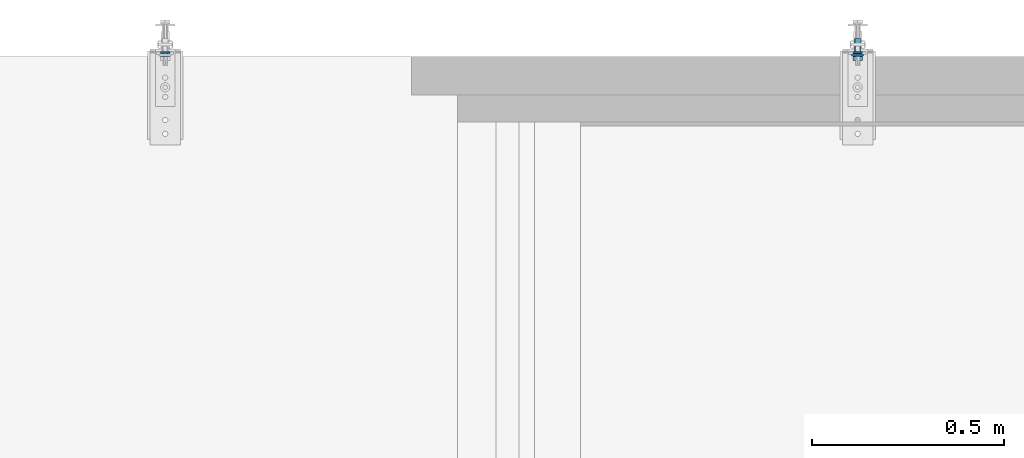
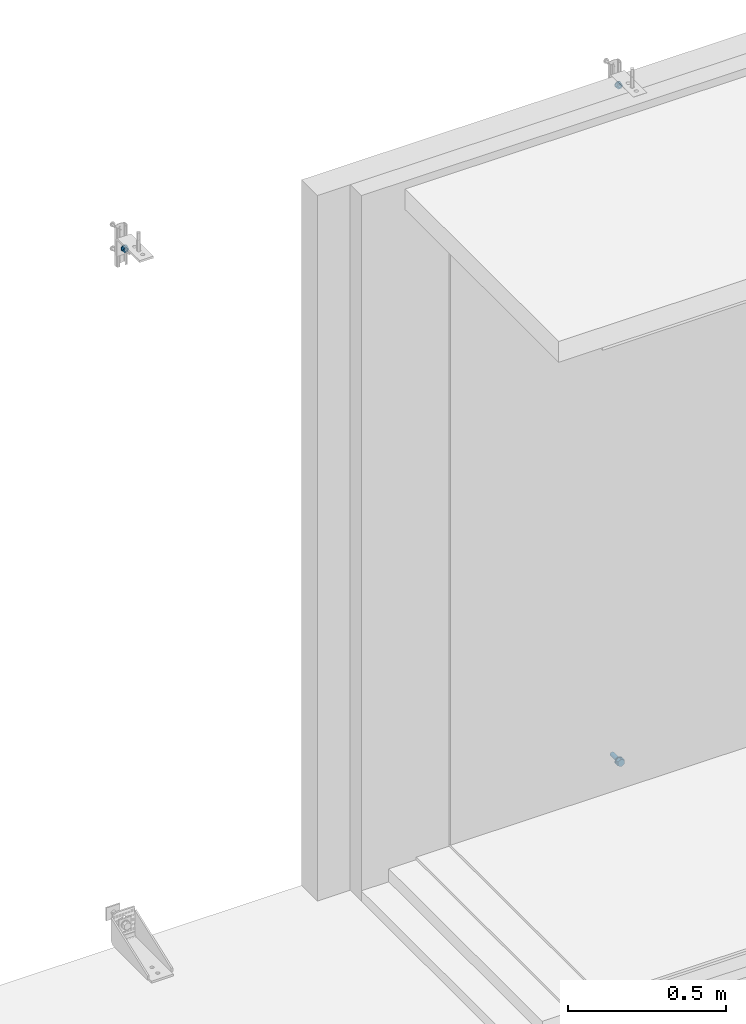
# One storey, part 2 of 7: 6 assemblies.
"""IFC2X3 building model written with IfcOpenShell, lengths in metres."""

from ifc_helpers import new_model, entity, si_unit, converted_unit, derived_unit, direction, frame, frame_2d, origin, place, context, subcontext, project, spatial, polyline, circle_curve, parameter, trimmed, segment, composite_curve, circle, hollow_circle, outline, extrude, source, transform, mapped, material, type_object, type_shapes, element, save


model = new_model("IFC2X3")

# Units and contexts
model_context = context("Model", 3, precision=1e-05, world=origin(), true_north=direction((6.123031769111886e-17, 1.0)))
body_context = subcontext(model_context, "Body", "Model", "MODEL_VIEW")
ifc_project = project(units=[si_unit("LENGTHUNIT", "METRE"), si_unit("AREAUNIT", "SQUARE_METRE"), converted_unit("PLANEANGLEUNIT", "DEGREE", entity("IfcPlaneAngleMeasure", 0.017453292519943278), si_unit("PLANEANGLEUNIT", "RADIAN"), dimensions=[0, 0, 0, 0, 0, 0, 0]), si_unit("VOLUMEUNIT", "CUBIC_METRE"), derived_unit("THERMALTRANSMITTANCEUNIT", [(si_unit("MASSUNIT", "GRAM", prefix="KILO"), 1), (si_unit("THERMODYNAMICTEMPERATUREUNIT", "KELVIN"), -1), (si_unit("TIMEUNIT", "SECOND"), -3)]), derived_unit("USERDEFINED", [(si_unit("MASSUNIT", "GRAM", prefix="KILO"), 1), (si_unit("THERMODYNAMICTEMPERATUREUNIT", "KELVIN"), -1), (si_unit("TIMEUNIT", "SECOND"), -2)]), derived_unit("THERMALRESISTANCEUNIT", [(si_unit("MASSUNIT", "GRAM", prefix="KILO"), -1), (si_unit("TIMEUNIT", "SECOND"), 3), (si_unit("THERMODYNAMICTEMPERATUREUNIT", "KELVIN"), 1)]), derived_unit("MASSDENSITYUNIT", [(si_unit("MASSUNIT", "GRAM", prefix="KILO"), 1), (si_unit("LENGTHUNIT", "METRE"), -3)]), derived_unit("VAPORPERMEABILITYUNIT", [(si_unit("LENGTHUNIT", "METRE"), -1), (si_unit("TIMEUNIT", "SECOND"), 1)]), derived_unit("USERDEFINED", [(si_unit("MASSUNIT", "GRAM", prefix="KILO"), 1), (si_unit("TIMEUNIT", "SECOND"), -3), (si_unit("LENGTHUNIT", "METRE"), 3), (si_unit("ELECTRICCURRENTUNIT", "AMPERE"), -2)]), si_unit("PRESSUREUNIT", "PASCAL")], contexts=[model_context])

# Site, building, storey
site_placement = place(None, origin())
site = spatial("IfcSite", under=ifc_project, at=site_placement, Name="Default", CompositionType="ELEMENT")
building_placement = place(site_placement, origin())
building = spatial("IfcBuilding", under=site, at=building_placement, CompositionType="ELEMENT")
storey_placement = place(building_placement, origin())
storey = spatial("IfcBuildingStorey", under=building, at=storey_placement, Name="L0", CompositionType="ELEMENT", Elevation=0.0)

# Assemblies
ifc_material = material(Name="REC_Acero, S 275JR (Zincado)")
type_product_1 = type_object("IfcTypeProduct", Name="REC-A-M16:A-M16", material=ifc_material)
shared_shape_1 = source(origin(), body_context, "Body", "SweptSolid", [
    extrude(hollow_circle(Radius=0.015, WallThickness=0.006499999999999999, at=frame_2d((1.062573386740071e-19, -6.753186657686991e-17), x_axis=(1.0, 0.0))), origin(), (0.0, 0.0, 1.0), 0.003),
])
type_shapes(type_product_1, [shared_shape_1])
assembly_1_placement = place(storey_placement, frame((7.287720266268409, 15.93990529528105, 0.07200000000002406), z_axis=(0.0, -1.0, 0.0), x_axis=(-1.0, 0.0, 0.0)))
element("IfcElementAssembly", 1, at=assembly_1_placement, inside=storey, type_object=type_product_1, material=ifc_material, Name="REC-A-M16:A-M16", ObjectType="REC-A-M16:A-M16", AssemblyPlace="NOTDEFINED", PredefinedType="NOTDEFINED", context=body_context, shape_type="MappedRepresentation", body=[
    mapped(shared_shape_1, transform((0.0, 0.0, 0.0), scale=1.0)),
])
type_product_2 = type_object("IfcTypeProduct", Name="REC-M16-45:M16-45", material=ifc_material)
shared_shape_2 = source(origin(), body_context, "Body", "SweptSolid", [
    extrude(outline(polyline([(-0.0070686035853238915, -0.012243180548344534), (0.007068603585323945, -0.012243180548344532), (0.014137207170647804, 0.0), (0.007068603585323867, 0.012243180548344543), (-0.007068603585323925, 0.012243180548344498), (-0.014137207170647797, 0.0), (-0.0070686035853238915, -0.012243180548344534)])), frame((0.0, 0.0, 0.0), z_axis=(0.0, 0.0, 1.0), x_axis=(-0.49999999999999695, -0.8660254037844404, 0.0)), (0.0, 0.0, 1.0), 0.013000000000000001),
    extrude(circle(Radius=0.008, at=frame_2d((-5.2874371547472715e-19, -3.601699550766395e-17), x_axis=(1.0, 0.0))), frame((0.0, 0.0, -0.045000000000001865)), (0.0, 0.0, 1.0), 0.045000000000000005),
])
type_shapes(type_product_2, [shared_shape_2])
assembly_2_placement = place(storey_placement, frame((7.287720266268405, 15.93690529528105, 0.07200000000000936), z_axis=(0.0, -1.0, 0.0), x_axis=(0.0, 0.0, 1.0)))
element("IfcElementAssembly", 2, at=assembly_2_placement, inside=storey, type_object=type_product_2, material=ifc_material, Name="REC-M16-45:M16-45", ObjectType="REC-M16-45:M16-45", AssemblyPlace="NOTDEFINED", PredefinedType="NOTDEFINED", context=body_context, shape_type="MappedRepresentation", body=[
    mapped(shared_shape_2, transform((0.0, 0.0, 0.0), scale=1.0)),
])
type_product_3 = type_object("IfcTypeProduct", Name="GEN-A-M12:A-M12", material=ifc_material)
shared_shape_3 = source(origin(), body_context, "Body", "SweptSolid", [
    extrude(hollow_circle(Radius=0.011999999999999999, WallThickness=0.004999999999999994, at=frame_2d((1.062573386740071e-19, -1.9386534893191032e-17), x_axis=(1.0, 0.0))), origin(), (0.0, 0.0, 1.0), 0.002399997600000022),
])
type_shapes(type_product_3, [shared_shape_3])
assembly_3_placement = place(storey_placement, frame((5.487720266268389, 15.94653029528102, 2.6749999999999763), z_axis=(0.0, -1.0, 0.0), x_axis=(-1.0, 0.0, 0.0)))
element("IfcElementAssembly", 3, at=assembly_3_placement, inside=storey, type_object=type_product_3, material=ifc_material, Name="GEN-A-M12:A-M12", ObjectType="GEN-A-M12:A-M12", AssemblyPlace="NOTDEFINED", PredefinedType="NOTDEFINED", context=body_context, shape_type="MappedRepresentation", body=[
    mapped(shared_shape_3, transform((0.0, 0.0, 0.0), scale=1.0)),
])
type_product_4 = type_object("IfcTypeProduct", Name="GEN-T-M12:T-M12", material=ifc_material)
shared_shape_4 = source(origin(), body_context, "Body", "SweptSolid", [
    extrude(outline(polyline([(-0.005890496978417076, -0.010202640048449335), (0.005890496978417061, -0.010202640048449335), (0.01178099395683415, 0.0), (0.005890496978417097, 0.010202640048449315), (-0.0058904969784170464, 0.010202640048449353), (-0.011780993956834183, 0.0), (-0.005890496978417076, -0.010202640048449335)]), holes=[composite_curve([segment(trimmed(circle_curve(frame_2d((6.043164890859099e-09, 0.0), x_axis=(1.0, 0.0)), 0.005999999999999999), [parameter(3.053332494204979e-13)], [parameter(180.0)], True, "PARAMETER"), False, "CONTINUOUS"), segment(trimmed(circle_curve(frame_2d((6.043164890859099e-09, 0.0), x_axis=(1.0, 0.0)), 0.005999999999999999), [parameter(179.99999999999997)], [parameter(0.0)], True, "PARAMETER"), False, "CONTINUOUS")], self_intersect=False)]), frame((-6.043164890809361e-09, 0.0, 0.0)), (0.0, 0.0, 1.0), 0.01),
])
type_shapes(type_product_4, [shared_shape_4])
assembly_4_placement = place(storey_placement, frame((5.48772026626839, 15.94413029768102, 2.6749999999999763), z_axis=(0.0, -1.0, 0.0), x_axis=(-1.0, 0.0, 0.0)))
element("IfcElementAssembly", 4, at=assembly_4_placement, inside=storey, type_object=type_product_4, material=ifc_material, Name="GEN-T-M12:T-M12", ObjectType="GEN-T-M12:T-M12", AssemblyPlace="NOTDEFINED", PredefinedType="NOTDEFINED", context=body_context, shape_type="MappedRepresentation", body=[
    mapped(shared_shape_4, transform((0.0, 0.0, 0.0), scale=1.0)),
])
type_product_5 = type_object("IfcTypeProduct", Name="GEN-A-M12:A-M12", material=ifc_material)
shared_shape_5 = source(origin(), body_context, "Body", "SweptSolid", [
    extrude(hollow_circle(Radius=0.011999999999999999, WallThickness=0.004999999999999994, at=frame_2d((1.062573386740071e-19, -5.4025493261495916e-17), x_axis=(1.0, 0.0))), origin(), (0.0, 0.0, 1.0), 0.002399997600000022),
])
type_shapes(type_product_5, [shared_shape_5])
assembly_5_placement = place(storey_placement, frame((7.287720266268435, 15.946530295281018, 2.6750000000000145), z_axis=(0.0, -1.0, 0.0), x_axis=(1.0, 0.0, 0.0)))
element("IfcElementAssembly", 5, at=assembly_5_placement, inside=storey, type_object=type_product_5, material=ifc_material, Name="GEN-A-M12:A-M12", ObjectType="GEN-A-M12:A-M12", AssemblyPlace="NOTDEFINED", PredefinedType="NOTDEFINED", context=body_context, shape_type="MappedRepresentation", body=[
    mapped(shared_shape_5, transform((0.0, 0.0, 0.0), scale=1.0)),
])
type_product_6 = type_object("IfcTypeProduct", Name="GEN-T-M12:T-M12", material=ifc_material)
shared_shape_6 = source(origin(), body_context, "Body", "SweptSolid", [
    extrude(outline(polyline([(-0.005890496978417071, -0.01020264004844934), (0.005890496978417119, -0.01020264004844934), (0.01178099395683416, 0.0), (0.005890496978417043, 0.010202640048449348), (-0.0058904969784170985, 0.010202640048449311), (-0.011780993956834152, 0.0), (-0.005890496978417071, -0.01020264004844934)]), holes=[composite_curve([segment(trimmed(circle_curve(frame_2d((-3.0215824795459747e-09, 5.2335342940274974e-09), x_axis=(-0.49999999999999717, 0.8660254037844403)), 0.005999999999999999), [parameter(0.0)], [parameter(180.00000000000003)], True, "PARAMETER"), False, "CONTINUOUS"), segment(trimmed(circle_curve(frame_2d((-3.0215824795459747e-09, 5.2335342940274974e-09), x_axis=(-0.49999999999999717, 0.8660254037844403)), 0.005999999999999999), [parameter(180.0)], [parameter(359.9999999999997)], True, "PARAMETER"), False, "CONTINUOUS")], self_intersect=False)]), frame((-6.04316488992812e-09, 0.0, 0.0), z_axis=(0.0, 0.0, 1.0), x_axis=(-0.4999999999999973, -0.8660254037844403, 0.0)), (0.0, 0.0, 1.0), 0.01),
])
type_shapes(type_product_6, [shared_shape_6])
assembly_6_placement = place(storey_placement, frame((7.287720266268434, 15.944130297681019, 2.6750000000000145), z_axis=(0.0, -1.0, 0.0), x_axis=(1.0, 0.0, 0.0)))
element("IfcElementAssembly", 6, at=assembly_6_placement, inside=storey, type_object=type_product_6, material=ifc_material, Name="GEN-T-M12:T-M12", ObjectType="GEN-T-M12:T-M12", AssemblyPlace="NOTDEFINED", PredefinedType="NOTDEFINED", context=body_context, shape_type="MappedRepresentation", body=[
    mapped(shared_shape_6, transform((0.0, 0.0, 0.0), scale=1.0)),
])

save(model, "model.ifc")
